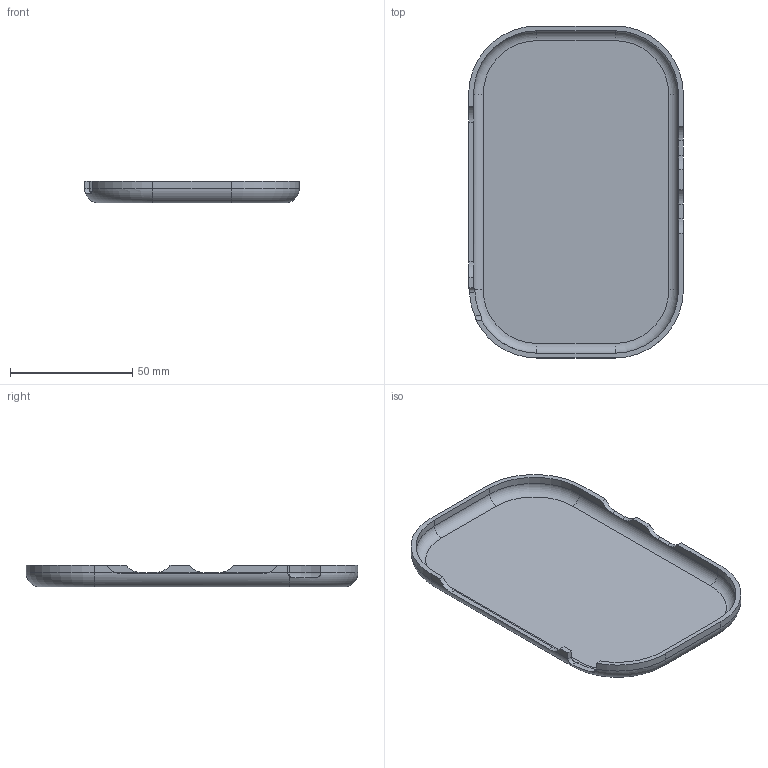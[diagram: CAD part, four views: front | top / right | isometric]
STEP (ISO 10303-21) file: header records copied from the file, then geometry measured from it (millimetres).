
FILE_DESCRIPTION(('Open CASCADE Model'),'2;1');
FILE_NAME('Open CASCADE Shape Model','2026-09-08T13:27:14',('Author'),( 'Open CASCADE'),'Open CASCADE STEP processor 7.7','Open CASCADE 7.7' ,'Unknown');
FILE_SCHEMA(('AUTOMOTIVE_DESIGN { 1 0 10303 214 1 1 1 1 }'));
Length unit declared in the file: millimetre
Products named in the file (1): Open CASCADE STEP translator 7.7 14
Bounding box: 88 x 136 x 9 mm (x, y, z)
Volume: 25588.6 mm3; surface area: 26419.5 mm2
Topology: 1 solids, 1 shells, 58 faces, 154 edges, 98 vertices
Faces by surface type: plane 26, cylinder 24, torus 8
Entity records: 4564 total; most frequent: CARTESIAN_POINT 1525, DIRECTION 564, LINE 314, VECTOR 314, ORIENTED_EDGE 308, PCURVE 308, DEFINITIONAL_REPRESENTATION 308, EDGE_CURVE 154
